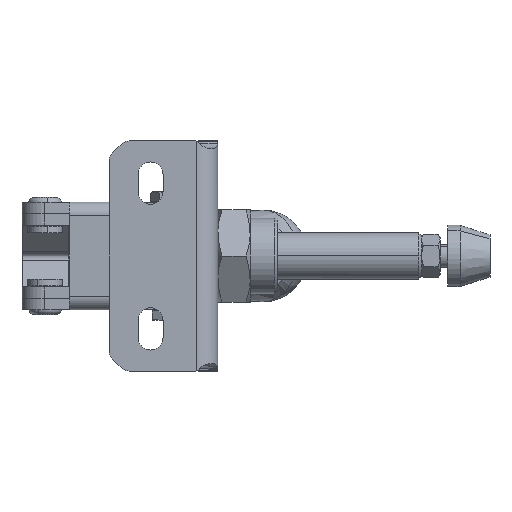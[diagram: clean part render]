
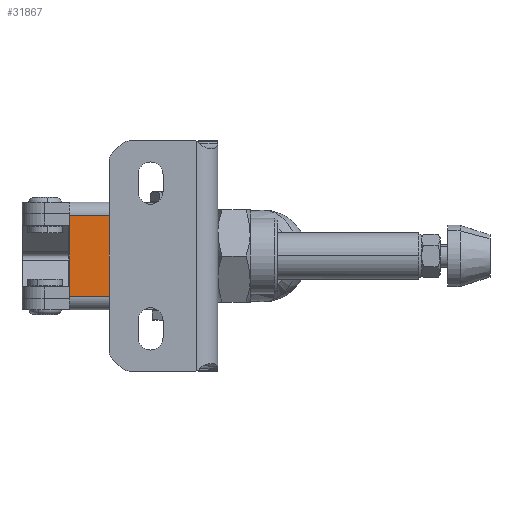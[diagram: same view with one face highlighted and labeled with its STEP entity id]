
A CAD part, front view. The second image highlights one B-rep face of the part: STEP entity #31867.
In plain terms, the highlighted planar face has unit normal (-0.007, -1, 0) as drawn and (0, -1, 0) by its records, which use the part's own axes.
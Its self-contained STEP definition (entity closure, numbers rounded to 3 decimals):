
#932 = VERTEX_POINT ( 'NONE', #4843 ) ;
#1643 = CARTESIAN_POINT ( 'NONE',  ( -9.6, -9.5, 0. ) ) ;
#2110 = EDGE_CURVE ( 'NONE', #25129, #28762, #6281, .T. ) ;
#2689 = EDGE_CURVE ( 'NONE', #932, #28762, #24479, .T. ) ;
#3332 = VERTEX_POINT ( 'NONE', #7336 ) ;
#3600 = CARTESIAN_POINT ( 'NONE',  ( 2.4, -9.5, -3.5 ) ) ;
#3858 = ORIENTED_EDGE ( 'NONE', *, *, #2689, .T. ) ;
#4143 = CARTESIAN_POINT ( 'NONE',  ( 2.4, -9.5, -3.5 ) ) ;
#4843 = CARTESIAN_POINT ( 'NONE',  ( 2.4, -9.5, -24.6 ) ) ;
#6281 = LINE ( 'NONE', #4143, #29171 ) ;
#6778 = VECTOR ( 'NONE', #30823, 1000. ) ;
#6786 = LINE ( 'NONE', #1643, #32503 ) ;
#7284 = EDGE_CURVE ( 'NONE', #3332, #932, #30479, .T. ) ;
#7336 = CARTESIAN_POINT ( 'NONE',  ( -9.6, -9.5, -24.6 ) ) ;
#9627 = DIRECTION ( 'NONE',  ( 0., 0., -1. ) ) ;
#10862 = CARTESIAN_POINT ( 'NONE',  ( -9.6, -9.5, -3.5 ) ) ;
#11139 = DIRECTION ( 'NONE',  ( 0., 0., 1. ) ) ;
#11800 = DIRECTION ( 'NONE',  ( 1., 0., 0. ) ) ;
#16909 = DIRECTION ( 'NONE',  ( 0., 0., 1. ) ) ;
#19401 = PLANE ( 'NONE',  #26235 ) ;
#22068 = FACE_OUTER_BOUND ( 'NONE', #27146, .T. ) ;
#22418 = DIRECTION ( 'NONE',  ( 0., 1., 0. ) ) ;
#24078 = ORIENTED_EDGE ( 'NONE', *, *, #7284, .T. ) ;
#24479 = LINE ( 'NONE', #30478, #29197 ) ;
#25129 = VERTEX_POINT ( 'NONE', #10862 ) ;
#26235 = AXIS2_PLACEMENT_3D ( 'NONE', #30202, #22418, #16909 ) ;
#26451 = ORIENTED_EDGE ( 'NONE', *, *, #2110, .F. ) ;
#27146 = EDGE_LOOP ( 'NONE', ( #26451, #27857, #24078, #3858 ) ) ;
#27857 = ORIENTED_EDGE ( 'NONE', *, *, #33255, .T. ) ;
#28506 = CARTESIAN_POINT ( 'NONE',  ( 2.4, -9.5, -24.6 ) ) ;
#28762 = VERTEX_POINT ( 'NONE', #3600 ) ;
#29171 = VECTOR ( 'NONE', #11800, 1000. ) ;
#29197 = VECTOR ( 'NONE', #11139, 1000. ) ;
#30202 = CARTESIAN_POINT ( 'NONE',  ( 0., -9.5, 0. ) ) ;
#30478 = CARTESIAN_POINT ( 'NONE',  ( 2.4, -9.5, 0. ) ) ;
#30479 = LINE ( 'NONE', #28506, #6778 ) ;
#30823 = DIRECTION ( 'NONE',  ( 1., 0., 0. ) ) ;
#31867 = ADVANCED_FACE ( 'NONE', ( #22068 ), #19401, .F. ) ;
#32503 = VECTOR ( 'NONE', #9627, 1000. ) ;
#33255 = EDGE_CURVE ( 'NONE', #25129, #3332, #6786, .T. ) ;
